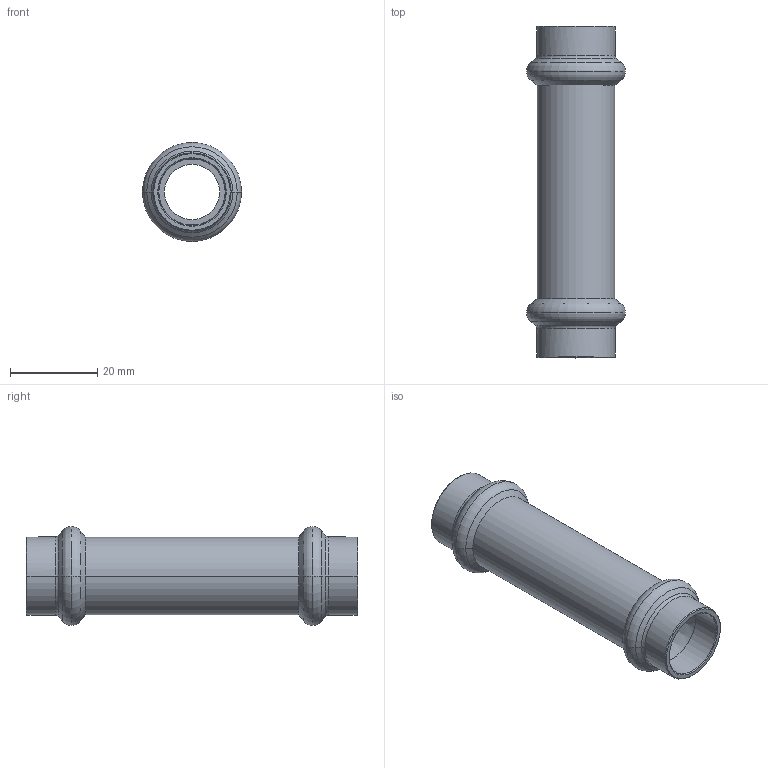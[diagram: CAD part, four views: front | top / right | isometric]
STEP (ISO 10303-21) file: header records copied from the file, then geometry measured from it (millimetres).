
FILE_DESCRIPTION(('CoCreate Modeling STEP Export'),'2;1');
FILE_NAME('8275VW15.stp','2013-01-29T12:42:27',(''),(''),'CoCreate Modeling STEP processor for AP214 (Solid Model)','CoCreate Modeling 17.00A 17-Jun-2010 (C) Parametric Technology GmbH','');
FILE_SCHEMA(('AUTOMOTIVE_DESIGN { 1 0 10303 214 1 1 1 1 }'));
Length unit declared in the file: millimetre
Products named in the file (1): 8275VW15
Bounding box: 22.69 x 76 x 22.69 mm (x, y, z)
Volume: 6533.2 mm3; surface area: 8605.9 mm2
Topology: 1 solids, 1 shells, 62 faces, 128 edges, 72 vertices
Faces by surface type: cylinder 20, cone 20, torus 16, plane 6
Entity records: 1326 total; most frequent: ORIENTED_EDGE 256, DIRECTION 206, CARTESIAN_POINT 195, EDGE_CURVE 128, AXIS2_PLACEMENT_3D 83, VERTEX_POINT 72, EDGE_LOOP 68, FACE_OUTER_BOUND 62
